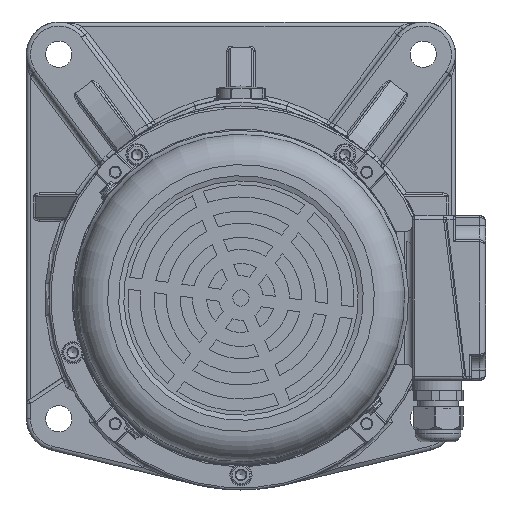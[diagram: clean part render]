
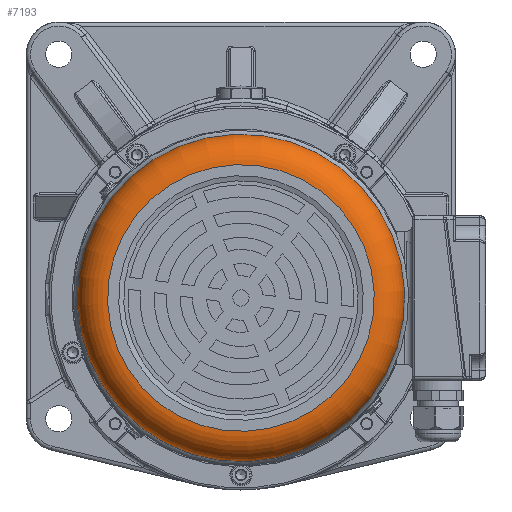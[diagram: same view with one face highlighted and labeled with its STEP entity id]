
A CAD part, left-side view. The second image highlights one B-rep face of the part: STEP entity #7193.
In plain terms, the highlighted toroidal (fillet/blend) face has major radius 66 mm and minor radius 15 mm.
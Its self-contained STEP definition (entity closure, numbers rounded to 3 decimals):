
#2624=FACE_BOUND('',#16401,.T.);
#2625=FACE_BOUND('',#16402,.T.);
#2891=TOROIDAL_SURFACE('',#67638,66.,15.);
#7193=ADVANCED_FACE('',(#2624,#2625),#2891,.T.);
#16401=EDGE_LOOP('',(#31102));
#16402=EDGE_LOOP('',(#31103));
#31102=ORIENTED_EDGE('',*,*,#49019,.T.);
#31103=ORIENTED_EDGE('',*,*,#49020,.F.);
#40789=VERTEX_POINT('',#115937);
#40790=VERTEX_POINT('',#115939);
#49019=EDGE_CURVE('',#40789,#40789,#52743,.T.);
#49020=EDGE_CURVE('',#40790,#40790,#52744,.T.);
#52743=CIRCLE('',#67636,66.);
#52744=CIRCLE('',#67637,81.);
#67636=AXIS2_PLACEMENT_3D('',#115936,#81481,#81482);
#67637=AXIS2_PLACEMENT_3D('',#115938,#81483,#81484);
#67638=AXIS2_PLACEMENT_3D('',#115940,#81485,#81486);
#81481=DIRECTION('',(1.,0.,0.));
#81482=DIRECTION('',(0.,0.609,-0.793));
#81483=DIRECTION('',(1.,0.,0.));
#81484=DIRECTION('',(0.,0.609,-0.793));
#81485=DIRECTION('',(1.,0.,0.));
#81486=DIRECTION('',(0.,0.609,-0.793));
#115936=CARTESIAN_POINT('',(1210.436,968.723,-899.702));
#115937=CARTESIAN_POINT('',(1210.436,1008.901,-952.063));
#115938=CARTESIAN_POINT('',(1225.436,968.723,-899.702));
#115939=CARTESIAN_POINT('',(1225.436,1018.033,-963.963));
#115940=CARTESIAN_POINT('',(1225.436,968.723,-899.702));
